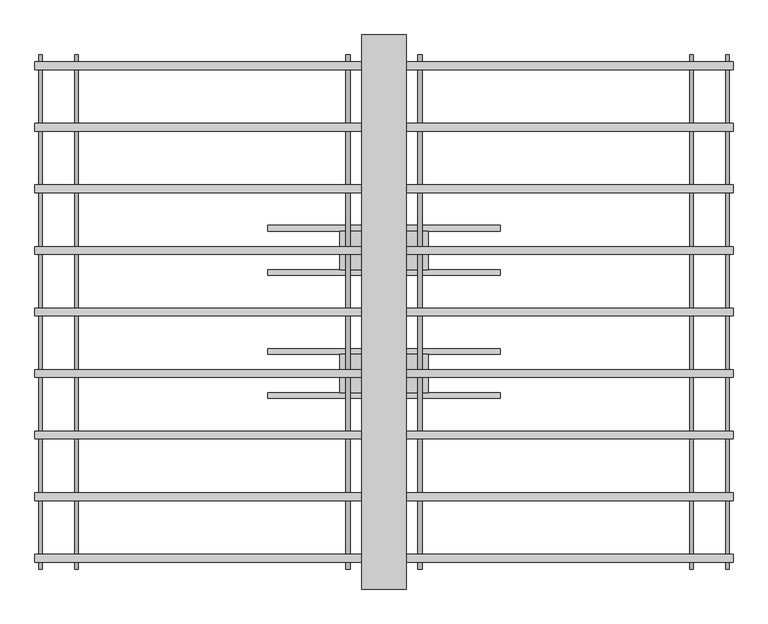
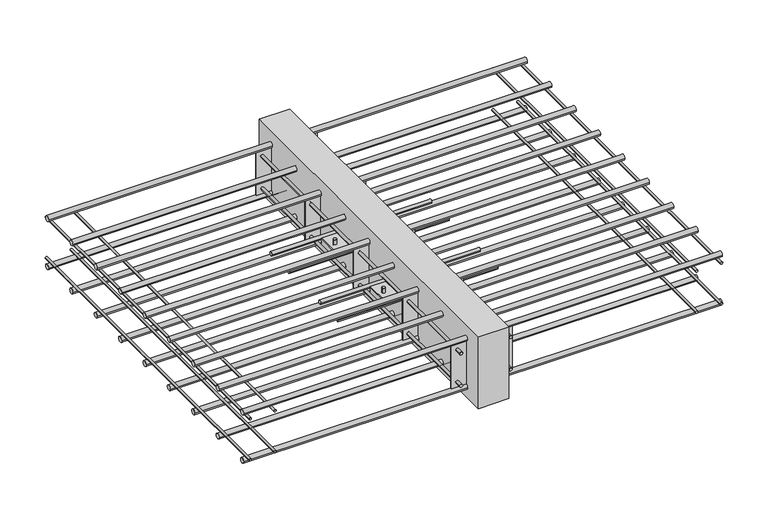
"""IFC4 building model written with IfcOpenShell, lengths in millimetres: proxy geometry, ACINOXplus_Typenreihe_M : MG+ S2."""

from ifc_helpers import new_model, si_unit, point, frame, frame_2d, origin, place, context, project, spatial, polyline, circle_curve, trimmed, segment, composite_curve, outline, extrude, source, transform, mapped, element, save
from ifc_brep_helpers import plane_surface, cylinder_surface, advanced_brep


def generic_models_0e482cd6(model_context):
    return source(origin(), model_context, "Body", "SolidModel", [
        extrude(outline(composite_curve([segment(trimmed(circle_curve(frame_2d((-151.1111111, -104.0)), 5.0), [point((-156.1111111, -104.0))], [point((-146.1111111, -104.0))], False, "CARTESIAN"), True, "CONTINUOUS"), segment(trimmed(circle_curve(frame_2d((-151.1111111, -104.0)), 5.0), [point((-146.1111111, -104.0))], [point((-156.1111111, -104.0))], False, "CARTESIAN"), True, "CONTINUOUS")], self_intersect=False)), frame((-210.0, 0.0, 0.0), z_axis=(1.0, 0.0, 0.0), x_axis=(0.0, 1.0, 0.0)), (0.0, 0.0, 1.0), 420.0),
        extrude(outline(composite_curve([segment(trimmed(circle_curve(frame_2d((-71.1111111, -104.0)), 5.0), [point((-76.1111111, -104.0))], [point((-66.1111111, -104.0))], False, "CARTESIAN"), True, "CONTINUOUS"), segment(trimmed(circle_curve(frame_2d((-71.1111111, -104.0)), 5.0), [point((-66.1111111, -104.0))], [point((-76.1111111, -104.0))], False, "CARTESIAN"), True, "CONTINUOUS")], self_intersect=False)), frame((-210.0, 0.0, 0.0), z_axis=(1.0, 0.0, 0.0), x_axis=(0.0, 1.0, 0.0)), (0.0, 0.0, 1.0), 420.0),
        advanced_brep(
        [(-69.0, -111.1111111, -89.0), (-61.0, -111.1111111, -89.0), (61.0, -111.1111111, -89.0), (69.0, -111.1111111, -89.0), (-69.0, -111.1111111, -119.0), (-61.0, -111.1111111, -119.0), (61.0, -111.1111111, -119.0), (69.0, -111.1111111, -119.0), (-69.0, -111.1111111, -102.5), (-61.0, -111.1111111, -102.5), (-61.0, -111.1111111, -105.5), (-69.0, -111.1111111, -105.5), (61.0, -111.1111111, -102.5), (69.0, -111.1111111, -102.5), (69.0, -111.1111111, -105.5), (61.0, -111.1111111, -105.5), (80.0, -76.1111111, -102.5), (-80.0, -76.1111111, -102.5), (-80.0, -146.1111111, -102.5), (80.0, -146.1111111, -102.5), (80.0, -76.1111111, -105.5), (80.0, -146.1111111, -105.5), (-80.0, -146.1111111, -105.5), (-80.0, -76.1111111, -105.5)],
        [
            (0, 1, circle_curve(frame((-65.0, -111.1111111, -89.0), z_axis=(0.0, 0.0, 1.0), x_axis=(1.0, 0.0, 0.0)), 4.0)),
            (1, 0, circle_curve(frame((-65.0, -111.1111111, -89.0), z_axis=(0.0, 0.0, 1.0), x_axis=(1.0, 0.0, 0.0)), 4.0)),
            (2, 3, circle_curve(frame((65.0, -111.1111111, -89.0), z_axis=(0.0, 0.0, 1.0), x_axis=(1.0, 0.0, 0.0)), 4.0)),
            (3, 2, circle_curve(frame((65.0, -111.1111111, -89.0), z_axis=(0.0, 0.0, 1.0), x_axis=(1.0, 0.0, 0.0)), 4.0)),
            (4, 5, circle_curve(frame((-65.0, -111.1111111, -119.0), z_axis=(0.0, 0.0, -1.0), x_axis=(1.0, 0.0, 0.0)), 4.0)),
            (5, 4, circle_curve(frame((-65.0, -111.1111111, -119.0), z_axis=(0.0, 0.0, -1.0), x_axis=(1.0, 0.0, 0.0)), 4.0)),
            (6, 7, circle_curve(frame((65.0, -111.1111111, -119.0), z_axis=(0.0, 0.0, -1.0), x_axis=(1.0, 0.0, 0.0)), 4.0)),
            (7, 6, circle_curve(frame((65.0, -111.1111111, -119.0), z_axis=(0.0, 0.0, -1.0), x_axis=(1.0, 0.0, 0.0)), 4.0)),
            (0, 8),
            (8, 9, circle_curve(frame((-65.0, -111.1111111, -102.5), z_axis=(0.0, 0.0, 1.0), x_axis=(1.0, 0.0, 0.0)), 4.0)),
            (9, 1),
            (5, 10),
            (10, 11, circle_curve(frame((-65.0, -111.1111111, -105.5), z_axis=(0.0, 0.0, -1.0), x_axis=(1.0, 0.0, 0.0)), 4.0)),
            (11, 4),
            (9, 8, circle_curve(frame((-65.0, -111.1111111, -102.5), z_axis=(0.0, 0.0, 1.0), x_axis=(1.0, 0.0, 0.0)), 4.0)),
            (11, 10, circle_curve(frame((-65.0, -111.1111111, -105.5), z_axis=(0.0, 0.0, -1.0), x_axis=(1.0, 0.0, 0.0)), 4.0)),
            (2, 12),
            (12, 13, circle_curve(frame((65.0, -111.1111111, -102.5), z_axis=(0.0, 0.0, 1.0), x_axis=(1.0, 0.0, 0.0)), 4.0)),
            (13, 3),
            (7, 14),
            (14, 15, circle_curve(frame((65.0, -111.1111111, -105.5), z_axis=(0.0, 0.0, -1.0), x_axis=(1.0, 0.0, 0.0)), 4.0)),
            (15, 6),
            (13, 12, circle_curve(frame((65.0, -111.1111111, -102.5), z_axis=(0.0, 0.0, 1.0), x_axis=(1.0, 0.0, 0.0)), 4.0)),
            (15, 14, circle_curve(frame((65.0, -111.1111111, -105.5), z_axis=(0.0, 0.0, -1.0), x_axis=(1.0, 0.0, 0.0)), 4.0)),
            (16, 17),
            (17, 18),
            (18, 19),
            (19, 16),
            (20, 21),
            (21, 22),
            (22, 23),
            (23, 20),
            (16, 20),
            (23, 17),
            (22, 18),
            (21, 19),
        ],
        [
            plane_surface(frame((-61.0, -111.1111111, -89.0), z_axis=(0.0, 0.0, 1.0), x_axis=(0.0, 1.0, 0.0))),
            plane_surface(frame((-61.0, -111.1111111, -119.0), z_axis=(0.0, 0.0, -1.0), x_axis=(0.0, -1.0, 0.0))),
            cylinder_surface(frame((-65.0, -111.1111111, -119.0), z_axis=(0.0, 0.0, 1.0), x_axis=(1.0, 0.0, 0.0)), 4.0),
            cylinder_surface(frame((65.0, -111.1111111, -104.0), z_axis=(0.0, 0.0, 1.0), x_axis=(1.0, 0.0, 0.0)), 4.0),
            plane_surface(frame((-80.0, -76.1111111, -102.5), z_axis=(0.0, 0.0, 1.0), x_axis=(-1.0, 0.0, 0.0))),
            plane_surface(frame((-80.0, -76.1111111, -105.5), z_axis=(0.0, 0.0, -1.0), x_axis=(1.0, 0.0, 0.0))),
            plane_surface(frame((80.0, -76.1111111, -102.5), z_axis=(0.0, 1.0, 0.0), x_axis=(0.0, 0.0, -1.0))),
            plane_surface(frame((-80.0, -76.1111111, -102.5), z_axis=(-1.0, 0.0, 0.0), x_axis=(0.0, 0.0, -1.0))),
            plane_surface(frame((-80.0, -146.1111111, -102.5), z_axis=(0.0, -1.0, 0.0), x_axis=(0.0, 0.0, -1.0))),
            plane_surface(frame((80.0, -146.1111111, -102.5), z_axis=(1.0, 0.0, 0.0), x_axis=(0.0, 0.0, -1.0))),
        ],
        [
            (0, [[1, 2]]),
            (0, [[3, 4]]),
            (1, [[5, 6]]),
            (1, [[7, 8]]),
            (2, [[-1, 9, 10, 11]]),
            (2, [[-6, 12, 13, 14]]),
            (2, [[-2, -11, 15, -9]]),
            (2, [[-5, -14, 16, -12]]),
            (3, [[-3, 17, 18, 19]]),
            (3, [[-8, 20, 21, 22]]),
            (3, [[-4, -19, 23, -17]]),
            (3, [[-7, -22, 24, -20]]),
            (4, [[25, 26, 27, 28], [-10, -15], [-18, -23]]),
            (5, [[29, 30, 31, 32], [-13, -16], [-21, -24]]),
            (6, [[-25, 33, -32, 34]]),
            (7, [[-26, -34, -31, 35]]),
            (8, [[-27, -35, -30, 36]]),
            (9, [[-28, -36, -29, -33]]),
        ],
    ),
        extrude(outline(composite_curve([segment(trimmed(circle_curve(frame_2d((71.1111111, -104.0)), 5.0), [point((66.1111111, -104.0))], [point((76.1111111, -104.0))], False, "CARTESIAN"), True, "CONTINUOUS"), segment(trimmed(circle_curve(frame_2d((71.1111111, -104.0)), 5.0), [point((76.1111111, -104.0))], [point((66.1111111, -104.0))], False, "CARTESIAN"), True, "CONTINUOUS")], self_intersect=False)), frame((-210.0, 0.0, 0.0), z_axis=(1.0, 0.0, 0.0), x_axis=(0.0, 1.0, 0.0)), (0.0, 0.0, 1.0), 420.0),
        extrude(outline(composite_curve([segment(trimmed(circle_curve(frame_2d((151.1111111, -104.0)), 5.0), [point((146.1111111, -104.0))], [point((156.1111111, -104.0))], False, "CARTESIAN"), True, "CONTINUOUS"), segment(trimmed(circle_curve(frame_2d((151.1111111, -104.0)), 5.0), [point((156.1111111, -104.0))], [point((146.1111111, -104.0))], False, "CARTESIAN"), True, "CONTINUOUS")], self_intersect=False)), frame((-210.0, 0.0, 0.0), z_axis=(1.0, 0.0, 0.0), x_axis=(0.0, 1.0, 0.0)), (0.0, 0.0, 1.0), 420.0),
        advanced_brep(
        [(-69.0, 111.1111111, -89.0), (-61.0, 111.1111111, -89.0), (61.0, 111.1111111, -89.0), (69.0, 111.1111111, -89.0), (-69.0, 111.1111111, -119.0), (-61.0, 111.1111111, -119.0), (61.0, 111.1111111, -119.0), (69.0, 111.1111111, -119.0), (-69.0, 111.1111111, -102.5), (-61.0, 111.1111111, -102.5), (-61.0, 111.1111111, -105.5), (-69.0, 111.1111111, -105.5), (61.0, 111.1111111, -102.5), (69.0, 111.1111111, -102.5), (69.0, 111.1111111, -105.5), (61.0, 111.1111111, -105.5), (80.0, 146.1111111, -102.5), (-80.0, 146.1111111, -102.5), (-80.0, 76.1111111, -102.5), (80.0, 76.1111111, -102.5), (80.0, 146.1111111, -105.5), (80.0, 76.1111111, -105.5), (-80.0, 76.1111111, -105.5), (-80.0, 146.1111111, -105.5)],
        [
            (0, 1, circle_curve(frame((-65.0, 111.1111111, -89.0), z_axis=(0.0, 0.0, 1.0), x_axis=(1.0, 0.0, 0.0)), 4.0)),
            (1, 0, circle_curve(frame((-65.0, 111.1111111, -89.0), z_axis=(0.0, 0.0, 1.0), x_axis=(1.0, 0.0, 0.0)), 4.0)),
            (2, 3, circle_curve(frame((65.0, 111.1111111, -89.0), z_axis=(0.0, 0.0, 1.0), x_axis=(1.0, 0.0, 0.0)), 4.0)),
            (3, 2, circle_curve(frame((65.0, 111.1111111, -89.0), z_axis=(0.0, 0.0, 1.0), x_axis=(1.0, 0.0, 0.0)), 4.0)),
            (4, 5, circle_curve(frame((-65.0, 111.1111111, -119.0), z_axis=(0.0, 0.0, -1.0), x_axis=(1.0, 0.0, 0.0)), 4.0)),
            (5, 4, circle_curve(frame((-65.0, 111.1111111, -119.0), z_axis=(0.0, 0.0, -1.0), x_axis=(1.0, 0.0, 0.0)), 4.0)),
            (6, 7, circle_curve(frame((65.0, 111.1111111, -119.0), z_axis=(0.0, 0.0, -1.0), x_axis=(1.0, 0.0, 0.0)), 4.0)),
            (7, 6, circle_curve(frame((65.0, 111.1111111, -119.0), z_axis=(0.0, 0.0, -1.0), x_axis=(1.0, 0.0, 0.0)), 4.0)),
            (0, 8),
            (8, 9, circle_curve(frame((-65.0, 111.1111111, -102.5), z_axis=(0.0, 0.0, 1.0), x_axis=(1.0, 0.0, 0.0)), 4.0)),
            (9, 1),
            (5, 10),
            (10, 11, circle_curve(frame((-65.0, 111.1111111, -105.5), z_axis=(0.0, 0.0, -1.0), x_axis=(1.0, 0.0, 0.0)), 4.0)),
            (11, 4),
            (9, 8, circle_curve(frame((-65.0, 111.1111111, -102.5), z_axis=(0.0, 0.0, 1.0), x_axis=(1.0, 0.0, 0.0)), 4.0)),
            (11, 10, circle_curve(frame((-65.0, 111.1111111, -105.5), z_axis=(0.0, 0.0, -1.0), x_axis=(1.0, 0.0, 0.0)), 4.0)),
            (2, 12),
            (12, 13, circle_curve(frame((65.0, 111.1111111, -102.5), z_axis=(0.0, 0.0, 1.0), x_axis=(1.0, 0.0, 0.0)), 4.0)),
            (13, 3),
            (7, 14),
            (14, 15, circle_curve(frame((65.0, 111.1111111, -105.5), z_axis=(0.0, 0.0, -1.0), x_axis=(1.0, 0.0, 0.0)), 4.0)),
            (15, 6),
            (13, 12, circle_curve(frame((65.0, 111.1111111, -102.5), z_axis=(0.0, 0.0, 1.0), x_axis=(1.0, 0.0, 0.0)), 4.0)),
            (15, 14, circle_curve(frame((65.0, 111.1111111, -105.5), z_axis=(0.0, 0.0, -1.0), x_axis=(1.0, 0.0, 0.0)), 4.0)),
            (16, 17),
            (17, 18),
            (18, 19),
            (19, 16),
            (20, 21),
            (21, 22),
            (22, 23),
            (23, 20),
            (16, 20),
            (23, 17),
            (22, 18),
            (21, 19),
        ],
        [
            plane_surface(frame((-61.0, 111.1111111, -89.0), z_axis=(0.0, 0.0, 1.0), x_axis=(0.0, 1.0, 0.0))),
            plane_surface(frame((-61.0, 111.1111111, -119.0), z_axis=(0.0, 0.0, -1.0), x_axis=(0.0, -1.0, 0.0))),
            cylinder_surface(frame((-65.0, 111.1111111, -119.0), z_axis=(0.0, 0.0, 1.0), x_axis=(1.0, 0.0, 0.0)), 4.0),
            cylinder_surface(frame((65.0, 111.1111111, -104.0), z_axis=(0.0, 0.0, 1.0), x_axis=(1.0, 0.0, 0.0)), 4.0),
            plane_surface(frame((-80.0, 146.1111111, -102.5), z_axis=(0.0, 0.0, 1.0), x_axis=(-1.0, 0.0, 0.0))),
            plane_surface(frame((-80.0, 146.1111111, -105.5), z_axis=(0.0, 0.0, -1.0), x_axis=(1.0, 0.0, 0.0))),
            plane_surface(frame((80.0, 146.1111111, -102.5), z_axis=(0.0, 1.0, 0.0), x_axis=(0.0, 0.0, -1.0))),
            plane_surface(frame((-80.0, 146.1111111, -102.5), z_axis=(-1.0, 0.0, 0.0), x_axis=(0.0, 0.0, -1.0))),
            plane_surface(frame((-80.0, 76.1111111, -102.5), z_axis=(0.0, -1.0, 0.0), x_axis=(0.0, 0.0, -1.0))),
            plane_surface(frame((80.0, 76.1111111, -102.5), z_axis=(1.0, 0.0, 0.0), x_axis=(0.0, 0.0, -1.0))),
        ],
        [
            (0, [[1, 2]]),
            (0, [[3, 4]]),
            (1, [[5, 6]]),
            (1, [[7, 8]]),
            (2, [[-1, 9, 10, 11]]),
            (2, [[-6, 12, 13, 14]]),
            (2, [[-2, -11, 15, -9]]),
            (2, [[-5, -14, 16, -12]]),
            (3, [[-3, 17, 18, 19]]),
            (3, [[-8, 20, 21, 22]]),
            (3, [[-4, -19, 23, -17]]),
            (3, [[-7, -22, 24, -20]]),
            (4, [[25, 26, 27, 28], [-10, -15], [-18, -23]]),
            (5, [[29, 30, 31, 32], [-13, -16], [-21, -24]]),
            (6, [[-25, 33, -32, 34]]),
            (7, [[-26, -34, -31, 35]]),
            (8, [[-27, -35, -30, 36]]),
            (9, [[-28, -36, -29, -33]]),
        ],
    ),
        extrude(outline(polyline([(40.0, 500.0), (40.0, -500.0), (-40.0, -500.0), (-40.0, 500.0), (40.0, 500.0)])), frame((0.0, 0.0, -200.0), z_axis=(0.0, 0.0, 1.0), x_axis=(1.0, 0.0, 0.0)), (0.0, 0.0, 1.0), 200.0),
        extrude(outline(polyline([(80.0, -220.7222222), (80.0, -223.7222222), (-80.0, -223.7222222), (-80.0, -220.7222222), (80.0, -220.7222222)])), frame((0.0, 0.0, -164.0), z_axis=(0.0, 0.0, 1.0), x_axis=(1.0, 0.0, 0.0)), (0.0, 0.0, 1.0), 120.0),
        extrude(outline(polyline([(80.0, 1.5), (80.0, -1.5), (-80.0, -1.5), (-80.0, 1.5), (80.0, 1.5)])), frame((0.0, 0.0, -164.0), z_axis=(0.0, 0.0, 1.0), x_axis=(1.0, 0.0, 0.0)), (0.0, 0.0, 1.0), 120.0),
        extrude(outline(polyline([(80.0, 223.7222222), (80.0, 220.7222222), (-80.0, 220.7222222), (-80.0, 223.7222222), (80.0, 223.7222222)])), frame((0.0, 0.0, -164.0), z_axis=(0.0, 0.0, 1.0), x_axis=(1.0, 0.0, 0.0)), (0.0, 0.0, 1.0), 120.0),
        extrude(outline(polyline([(80.0, -442.9444444), (80.0, -445.9444444), (-80.0, -445.9444444), (-80.0, -442.9444444), (80.0, -442.9444444)])), frame((0.0, 0.0, -164.0), z_axis=(0.0, 0.0, 1.0), x_axis=(1.0, 0.0, 0.0)), (0.0, 0.0, 1.0), 120.0),
        extrude(outline(polyline([(80.0, 445.9444444), (80.0, 442.9444444), (-80.0, 442.9444444), (-80.0, 445.9444444), (80.0, 445.9444444)])), frame((0.0, 0.0, -164.0), z_axis=(0.0, 0.0, 1.0), x_axis=(1.0, 0.0, 0.0)), (0.0, 0.0, 1.0), 120.0),
        extrude(outline(composite_curve([segment(trimmed(circle_curve(frame_2d((-149.0, -65.0)), 4.0), [point((-149.0, -61.0))], [point((-149.0, -69.0))], False, "CARTESIAN"), True, "CONTINUOUS"), segment(trimmed(circle_curve(frame_2d((-149.0, -65.0)), 4.0), [point((-149.0, -69.0))], [point((-149.0, -61.0))], False, "CARTESIAN"), True, "CONTINUOUS")], self_intersect=False)), frame((0.0, -464.4444444, 0.0), z_axis=(0.0, 1.0, 0.0), x_axis=(0.0, 0.0, 1.0)), (0.0, 0.0, 1.0), 18.5),
        extrude(outline(composite_curve([segment(trimmed(circle_curve(frame_2d((-149.0, -65.0)), 4.0), [point((-149.0, -69.0))], [point((-149.0, -61.0))], False, "CARTESIAN"), True, "CONTINUOUS"), segment(trimmed(circle_curve(frame_2d((-149.0, -65.0)), 4.0), [point((-149.0, -61.0))], [point((-149.0, -69.0))], False, "CARTESIAN"), True, "CONTINUOUS")], self_intersect=False)), frame((0.0, -442.9444444, 0.0), z_axis=(0.0, 1.0, 0.0), x_axis=(0.0, 0.0, 1.0)), (0.0, 0.0, 1.0), 663.6666667),
        extrude(outline(composite_curve([segment(trimmed(circle_curve(frame_2d((-149.0, -65.0)), 4.0), [point((-149.0, -69.0))], [point((-149.0, -61.0))], False, "CARTESIAN"), True, "CONTINUOUS"), segment(trimmed(circle_curve(frame_2d((-149.0, -65.0)), 4.0), [point((-149.0, -61.0))], [point((-149.0, -69.0))], False, "CARTESIAN"), True, "CONTINUOUS")], self_intersect=False)), frame((0.0, 445.9444444, 0.0), z_axis=(0.0, 1.0, 0.0), x_axis=(0.0, 0.0, 1.0)), (0.0, 0.0, 1.0), 18.5),
        extrude(outline(composite_curve([segment(trimmed(circle_curve(frame_2d((-149.0, -65.0)), 4.0), [point((-149.0, -69.0))], [point((-149.0, -61.0))], False, "CARTESIAN"), True, "CONTINUOUS"), segment(trimmed(circle_curve(frame_2d((-149.0, -65.0)), 4.0), [point((-149.0, -61.0))], [point((-149.0, -69.0))], False, "CARTESIAN"), True, "CONTINUOUS")], self_intersect=False)), frame((0.0, 223.7222222, 0.0), z_axis=(0.0, 1.0, 0.0), x_axis=(0.0, 0.0, 1.0)), (0.0, 0.0, 1.0), 219.2222222),
        extrude(outline(composite_curve([segment(trimmed(circle_curve(frame_2d((-149.0, 65.0)), 4.0), [point((-149.0, 69.0))], [point((-149.0, 61.0))], False, "CARTESIAN"), True, "CONTINUOUS"), segment(trimmed(circle_curve(frame_2d((-149.0, 65.0)), 4.0), [point((-149.0, 61.0))], [point((-149.0, 69.0))], False, "CARTESIAN"), True, "CONTINUOUS")], self_intersect=False)), frame((0.0, -464.4444444, 0.0), z_axis=(0.0, 1.0, 0.0), x_axis=(0.0, 0.0, 1.0)), (0.0, 0.0, 1.0), 18.5),
        extrude(outline(composite_curve([segment(trimmed(circle_curve(frame_2d((-149.0, 65.0)), 4.0), [point((-149.0, 61.0))], [point((-149.0, 69.0))], False, "CARTESIAN"), True, "CONTINUOUS"), segment(trimmed(circle_curve(frame_2d((-149.0, 65.0)), 4.0), [point((-149.0, 69.0))], [point((-149.0, 61.0))], False, "CARTESIAN"), True, "CONTINUOUS")], self_intersect=False)), frame((0.0, -442.9444444, 0.0), z_axis=(0.0, 1.0, 0.0), x_axis=(0.0, 0.0, 1.0)), (0.0, 0.0, 1.0), 663.6666667),
        extrude(outline(composite_curve([segment(trimmed(circle_curve(frame_2d((-149.0, 65.0)), 4.0), [point((-149.0, 61.0))], [point((-149.0, 69.0))], False, "CARTESIAN"), True, "CONTINUOUS"), segment(trimmed(circle_curve(frame_2d((-149.0, 65.0)), 4.0), [point((-149.0, 69.0))], [point((-149.0, 61.0))], False, "CARTESIAN"), True, "CONTINUOUS")], self_intersect=False)), frame((0.0, 445.9444444, 0.0), z_axis=(0.0, 1.0, 0.0), x_axis=(0.0, 0.0, 1.0)), (0.0, 0.0, 1.0), 18.5),
        extrude(outline(composite_curve([segment(trimmed(circle_curve(frame_2d((-149.0, 65.0)), 4.0), [point((-149.0, 61.0))], [point((-149.0, 69.0))], False, "CARTESIAN"), True, "CONTINUOUS"), segment(trimmed(circle_curve(frame_2d((-149.0, 65.0)), 4.0), [point((-149.0, 69.0))], [point((-149.0, 61.0))], False, "CARTESIAN"), True, "CONTINUOUS")], self_intersect=False)), frame((0.0, 223.7222222, 0.0), z_axis=(0.0, 1.0, 0.0), x_axis=(0.0, 0.0, 1.0)), (0.0, 0.0, 1.0), 219.2222222),
        extrude(outline(composite_curve([segment(trimmed(circle_curve(frame_2d((-59.0, -65.0)), 4.0), [point((-59.0, -61.0))], [point((-59.0, -69.0))], False, "CARTESIAN"), True, "CONTINUOUS"), segment(trimmed(circle_curve(frame_2d((-59.0, -65.0)), 4.0), [point((-59.0, -69.0))], [point((-59.0, -61.0))], False, "CARTESIAN"), True, "CONTINUOUS")], self_intersect=False)), frame((0.0, -464.4444444, 0.0), z_axis=(0.0, 1.0, 0.0), x_axis=(0.0, 0.0, 1.0)), (0.0, 0.0, 1.0), 18.5),
        extrude(outline(composite_curve([segment(trimmed(circle_curve(frame_2d((-59.0, -65.0)), 4.0), [point((-59.0, -69.0))], [point((-59.0, -61.0))], False, "CARTESIAN"), True, "CONTINUOUS"), segment(trimmed(circle_curve(frame_2d((-59.0, -65.0)), 4.0), [point((-59.0, -61.0))], [point((-59.0, -69.0))], False, "CARTESIAN"), True, "CONTINUOUS")], self_intersect=False)), frame((0.0, -442.9444444, 0.0), z_axis=(0.0, 1.0, 0.0), x_axis=(0.0, 0.0, 1.0)), (0.0, 0.0, 1.0), 663.6666667),
        extrude(outline(composite_curve([segment(trimmed(circle_curve(frame_2d((-59.0, -65.0)), 4.0), [point((-59.0, -69.0))], [point((-59.0, -61.0))], False, "CARTESIAN"), True, "CONTINUOUS"), segment(trimmed(circle_curve(frame_2d((-59.0, -65.0)), 4.0), [point((-59.0, -61.0))], [point((-59.0, -69.0))], False, "CARTESIAN"), True, "CONTINUOUS")], self_intersect=False)), frame((0.0, 445.9444444, 0.0), z_axis=(0.0, 1.0, 0.0), x_axis=(0.0, 0.0, 1.0)), (0.0, 0.0, 1.0), 18.5),
        extrude(outline(composite_curve([segment(trimmed(circle_curve(frame_2d((-59.0, -65.0)), 4.0), [point((-59.0, -69.0))], [point((-59.0, -61.0))], False, "CARTESIAN"), True, "CONTINUOUS"), segment(trimmed(circle_curve(frame_2d((-59.0, -65.0)), 4.0), [point((-59.0, -61.0))], [point((-59.0, -69.0))], False, "CARTESIAN"), True, "CONTINUOUS")], self_intersect=False)), frame((0.0, 223.7222222, 0.0), z_axis=(0.0, 1.0, 0.0), x_axis=(0.0, 0.0, 1.0)), (0.0, 0.0, 1.0), 219.2222222),
        extrude(outline(composite_curve([segment(trimmed(circle_curve(frame_2d((-59.0, 65.0)), 4.0), [point((-59.0, 69.0))], [point((-59.0, 61.0))], False, "CARTESIAN"), True, "CONTINUOUS"), segment(trimmed(circle_curve(frame_2d((-59.0, 65.0)), 4.0), [point((-59.0, 61.0))], [point((-59.0, 69.0))], False, "CARTESIAN"), True, "CONTINUOUS")], self_intersect=False)), frame((0.0, -464.4444444, 0.0), z_axis=(0.0, 1.0, 0.0), x_axis=(0.0, 0.0, 1.0)), (0.0, 0.0, 1.0), 18.5),
        extrude(outline(composite_curve([segment(trimmed(circle_curve(frame_2d((-59.0, 65.0)), 4.0), [point((-59.0, 61.0))], [point((-59.0, 69.0))], False, "CARTESIAN"), True, "CONTINUOUS"), segment(trimmed(circle_curve(frame_2d((-59.0, 65.0)), 4.0), [point((-59.0, 69.0))], [point((-59.0, 61.0))], False, "CARTESIAN"), True, "CONTINUOUS")], self_intersect=False)), frame((0.0, -442.9444444, 0.0), z_axis=(0.0, 1.0, 0.0), x_axis=(0.0, 0.0, 1.0)), (0.0, 0.0, 1.0), 663.6666667),
        extrude(outline(composite_curve([segment(trimmed(circle_curve(frame_2d((-59.0, 65.0)), 4.0), [point((-59.0, 61.0))], [point((-59.0, 69.0))], False, "CARTESIAN"), True, "CONTINUOUS"), segment(trimmed(circle_curve(frame_2d((-59.0, 65.0)), 4.0), [point((-59.0, 69.0))], [point((-59.0, 61.0))], False, "CARTESIAN"), True, "CONTINUOUS")], self_intersect=False)), frame((0.0, 445.9444444, 0.0), z_axis=(0.0, 1.0, 0.0), x_axis=(0.0, 0.0, 1.0)), (0.0, 0.0, 1.0), 18.5),
        extrude(outline(composite_curve([segment(trimmed(circle_curve(frame_2d((-59.0, 65.0)), 4.0), [point((-59.0, 61.0))], [point((-59.0, 69.0))], False, "CARTESIAN"), True, "CONTINUOUS"), segment(trimmed(circle_curve(frame_2d((-59.0, 65.0)), 4.0), [point((-59.0, 69.0))], [point((-59.0, 61.0))], False, "CARTESIAN"), True, "CONTINUOUS")], self_intersect=False)), frame((0.0, 223.7222222, 0.0), z_axis=(0.0, 1.0, 0.0), x_axis=(0.0, 0.0, 1.0)), (0.0, 0.0, 1.0), 219.2222222),
        extrude(outline(composite_curve([segment(trimmed(circle_curve(frame_2d((222.2222222, -171.0)), 7.0), [point((215.2222222, -171.0))], [point((229.2222222, -171.0))], False, "CARTESIAN"), True, "CONTINUOUS"), segment(trimmed(circle_curve(frame_2d((222.2222222, -171.0)), 7.0), [point((229.2222222, -171.0))], [point((215.2222222, -171.0))], False, "CARTESIAN"), True, "CONTINUOUS")], self_intersect=False)), frame((-630.0, 0.0, 0.0), z_axis=(1.0, 0.0, 0.0), x_axis=(0.0, 1.0, 0.0)), (0.0, 0.0, 1.0), 1260.0),
        extrude(outline(composite_curve([segment(trimmed(circle_curve(frame_2d((111.1111111, -171.0)), 7.0), [point((104.1111111, -171.0))], [point((118.1111111, -171.0))], False, "CARTESIAN"), True, "CONTINUOUS"), segment(trimmed(circle_curve(frame_2d((111.1111111, -171.0)), 7.0), [point((118.1111111, -171.0))], [point((104.1111111, -171.0))], False, "CARTESIAN"), True, "CONTINUOUS")], self_intersect=False)), frame((-630.0, 0.0, 0.0), z_axis=(1.0, 0.0, 0.0), x_axis=(0.0, 1.0, 0.0)), (0.0, 0.0, 1.0), 1260.0),
        extrude(outline(composite_curve([segment(trimmed(circle_curve(frame_2d((0.0, -171.0)), 7.0), [point((-7.0, -171.0))], [point((7.0, -171.0))], False, "CARTESIAN"), True, "CONTINUOUS"), segment(trimmed(circle_curve(frame_2d((0.0, -171.0)), 7.0), [point((7.0, -171.0))], [point((-7.0, -171.0))], False, "CARTESIAN"), True, "CONTINUOUS")], self_intersect=False)), frame((-630.0, 0.0, 0.0), z_axis=(1.0, 0.0, 0.0), x_axis=(0.0, 1.0, 0.0)), (0.0, 0.0, 1.0), 1260.0),
        extrude(outline(composite_curve([segment(trimmed(circle_curve(frame_2d((-111.1111111, -171.0)), 7.0), [point((-118.1111111, -171.0))], [point((-104.1111111, -171.0))], False, "CARTESIAN"), True, "CONTINUOUS"), segment(trimmed(circle_curve(frame_2d((-111.1111111, -171.0)), 7.0), [point((-104.1111111, -171.0))], [point((-118.1111111, -171.0))], False, "CARTESIAN"), True, "CONTINUOUS")], self_intersect=False)), frame((-630.0, 0.0, 0.0), z_axis=(1.0, 0.0, 0.0), x_axis=(0.0, 1.0, 0.0)), (0.0, 0.0, 1.0), 1260.0),
        extrude(outline(composite_curve([segment(trimmed(circle_curve(frame_2d((-222.2222222, -171.0)), 7.0), [point((-229.2222222, -171.0))], [point((-215.2222222, -171.0))], False, "CARTESIAN"), True, "CONTINUOUS"), segment(trimmed(circle_curve(frame_2d((-222.2222222, -171.0)), 7.0), [point((-215.2222222, -171.0))], [point((-229.2222222, -171.0))], False, "CARTESIAN"), True, "CONTINUOUS")], self_intersect=False)), frame((-630.0, 0.0, 0.0), z_axis=(1.0, 0.0, 0.0), x_axis=(0.0, 1.0, 0.0)), (0.0, 0.0, 1.0), 1260.0),
        extrude(outline(composite_curve([segment(trimmed(circle_curve(frame_2d((333.3333333, -171.0)), 7.0), [point((326.3333333, -171.0))], [point((340.3333333, -171.0))], False, "CARTESIAN"), True, "CONTINUOUS"), segment(trimmed(circle_curve(frame_2d((333.3333333, -171.0)), 7.0), [point((340.3333333, -171.0))], [point((326.3333333, -171.0))], False, "CARTESIAN"), True, "CONTINUOUS")], self_intersect=False)), frame((-630.0, 0.0, 0.0), z_axis=(1.0, 0.0, 0.0), x_axis=(0.0, 1.0, 0.0)), (0.0, 0.0, 1.0), 1260.0),
        extrude(outline(composite_curve([segment(trimmed(circle_curve(frame_2d((444.4444444, -171.0)), 7.0), [point((437.4444444, -171.0))], [point((451.4444444, -171.0))], False, "CARTESIAN"), True, "CONTINUOUS"), segment(trimmed(circle_curve(frame_2d((444.4444444, -171.0)), 7.0), [point((451.4444444, -171.0))], [point((437.4444444, -171.0))], False, "CARTESIAN"), True, "CONTINUOUS")], self_intersect=False)), frame((-630.0, 0.0, 0.0), z_axis=(1.0, 0.0, 0.0), x_axis=(0.0, 1.0, 0.0)), (0.0, 0.0, 1.0), 1260.0),
        extrude(outline(composite_curve([segment(trimmed(circle_curve(frame_2d((-333.3333333, -171.0)), 7.0), [point((-340.3333333, -171.0))], [point((-326.3333333, -171.0))], False, "CARTESIAN"), True, "CONTINUOUS"), segment(trimmed(circle_curve(frame_2d((-333.3333333, -171.0)), 7.0), [point((-326.3333333, -171.0))], [point((-340.3333333, -171.0))], False, "CARTESIAN"), True, "CONTINUOUS")], self_intersect=False)), frame((-630.0, 0.0, 0.0), z_axis=(1.0, 0.0, 0.0), x_axis=(0.0, 1.0, 0.0)), (0.0, 0.0, 1.0), 1260.0),
        extrude(outline(composite_curve([segment(trimmed(circle_curve(frame_2d((-444.4444444, -171.0)), 7.0), [point((-451.4444444, -171.0))], [point((-437.4444444, -171.0))], False, "CARTESIAN"), True, "CONTINUOUS"), segment(trimmed(circle_curve(frame_2d((-444.4444444, -171.0)), 7.0), [point((-437.4444444, -171.0))], [point((-451.4444444, -171.0))], False, "CARTESIAN"), True, "CONTINUOUS")], self_intersect=False)), frame((-630.0, 0.0, 0.0), z_axis=(1.0, 0.0, 0.0), x_axis=(0.0, 1.0, 0.0)), (0.0, 0.0, 1.0), 1260.0),
        extrude(outline(composite_curve([segment(trimmed(circle_curve(frame_2d((222.2222222, -37.0)), 7.0), [point((215.2222222, -37.0))], [point((229.2222222, -37.0))], False, "CARTESIAN"), True, "CONTINUOUS"), segment(trimmed(circle_curve(frame_2d((222.2222222, -37.0)), 7.0), [point((229.2222222, -37.0))], [point((215.2222222, -37.0))], False, "CARTESIAN"), True, "CONTINUOUS")], self_intersect=False)), frame((-630.0, 0.0, 0.0), z_axis=(1.0, 0.0, 0.0), x_axis=(0.0, 1.0, 0.0)), (0.0, 0.0, 1.0), 1260.0),
        extrude(outline(composite_curve([segment(trimmed(circle_curve(frame_2d((111.1111111, -37.0)), 7.0), [point((104.1111111, -37.0))], [point((118.1111111, -37.0))], False, "CARTESIAN"), True, "CONTINUOUS"), segment(trimmed(circle_curve(frame_2d((111.1111111, -37.0)), 7.0), [point((118.1111111, -37.0))], [point((104.1111111, -37.0))], False, "CARTESIAN"), True, "CONTINUOUS")], self_intersect=False)), frame((-630.0, 0.0, 0.0), z_axis=(1.0, 0.0, 0.0), x_axis=(0.0, 1.0, 0.0)), (0.0, 0.0, 1.0), 1260.0),
        extrude(outline(composite_curve([segment(trimmed(circle_curve(frame_2d((0.0, -37.0)), 7.0), [point((-7.0, -37.0))], [point((7.0, -37.0))], False, "CARTESIAN"), True, "CONTINUOUS"), segment(trimmed(circle_curve(frame_2d((0.0, -37.0)), 7.0), [point((7.0, -37.0))], [point((-7.0, -37.0))], False, "CARTESIAN"), True, "CONTINUOUS")], self_intersect=False)), frame((-630.0, 0.0, 0.0), z_axis=(1.0, 0.0, 0.0), x_axis=(0.0, 1.0, 0.0)), (0.0, 0.0, 1.0), 1260.0),
        extrude(outline(composite_curve([segment(trimmed(circle_curve(frame_2d((-111.1111111, -37.0)), 7.0), [point((-118.1111111, -37.0))], [point((-104.1111111, -37.0))], False, "CARTESIAN"), True, "CONTINUOUS"), segment(trimmed(circle_curve(frame_2d((-111.1111111, -37.0)), 7.0), [point((-104.1111111, -37.0))], [point((-118.1111111, -37.0))], False, "CARTESIAN"), True, "CONTINUOUS")], self_intersect=False)), frame((-630.0, 0.0, 0.0), z_axis=(1.0, 0.0, 0.0), x_axis=(0.0, 1.0, 0.0)), (0.0, 0.0, 1.0), 1260.0),
        extrude(outline(composite_curve([segment(trimmed(circle_curve(frame_2d((-222.2222222, -37.0)), 7.0), [point((-229.2222222, -37.0))], [point((-215.2222222, -37.0))], False, "CARTESIAN"), True, "CONTINUOUS"), segment(trimmed(circle_curve(frame_2d((-222.2222222, -37.0)), 7.0), [point((-215.2222222, -37.0))], [point((-229.2222222, -37.0))], False, "CARTESIAN"), True, "CONTINUOUS")], self_intersect=False)), frame((-630.0, 0.0, 0.0), z_axis=(1.0, 0.0, 0.0), x_axis=(0.0, 1.0, 0.0)), (0.0, 0.0, 1.0), 1260.0),
        extrude(outline(composite_curve([segment(trimmed(circle_curve(frame_2d((333.3333333, -37.0)), 7.0), [point((326.3333333, -37.0))], [point((340.3333333, -37.0))], False, "CARTESIAN"), True, "CONTINUOUS"), segment(trimmed(circle_curve(frame_2d((333.3333333, -37.0)), 7.0), [point((340.3333333, -37.0))], [point((326.3333333, -37.0))], False, "CARTESIAN"), True, "CONTINUOUS")], self_intersect=False)), frame((-630.0, 0.0, 0.0), z_axis=(1.0, 0.0, 0.0), x_axis=(0.0, 1.0, 0.0)), (0.0, 0.0, 1.0), 1260.0),
        extrude(outline(composite_curve([segment(trimmed(circle_curve(frame_2d((444.4444444, -37.0)), 7.0), [point((437.4444444, -37.0))], [point((451.4444444, -37.0))], False, "CARTESIAN"), True, "CONTINUOUS"), segment(trimmed(circle_curve(frame_2d((444.4444444, -37.0)), 7.0), [point((451.4444444, -37.0))], [point((437.4444444, -37.0))], False, "CARTESIAN"), True, "CONTINUOUS")], self_intersect=False)), frame((-630.0, 0.0, 0.0), z_axis=(1.0, 0.0, 0.0), x_axis=(0.0, 1.0, 0.0)), (0.0, 0.0, 1.0), 1260.0),
        extrude(outline(composite_curve([segment(trimmed(circle_curve(frame_2d((-333.3333333, -37.0)), 7.0), [point((-340.3333333, -37.0))], [point((-326.3333333, -37.0))], False, "CARTESIAN"), True, "CONTINUOUS"), segment(trimmed(circle_curve(frame_2d((-333.3333333, -37.0)), 7.0), [point((-326.3333333, -37.0))], [point((-340.3333333, -37.0))], False, "CARTESIAN"), True, "CONTINUOUS")], self_intersect=False)), frame((-630.0, 0.0, 0.0), z_axis=(1.0, 0.0, 0.0), x_axis=(0.0, 1.0, 0.0)), (0.0, 0.0, 1.0), 1260.0),
        extrude(outline(composite_curve([segment(trimmed(circle_curve(frame_2d((-444.4444444, -37.0)), 7.0), [point((-451.4444444, -37.0))], [point((-437.4444444, -37.0))], False, "CARTESIAN"), True, "CONTINUOUS"), segment(trimmed(circle_curve(frame_2d((-444.4444444, -37.0)), 7.0), [point((-437.4444444, -37.0))], [point((-451.4444444, -37.0))], False, "CARTESIAN"), True, "CONTINUOUS")], self_intersect=False)), frame((-630.0, 0.0, 0.0), z_axis=(1.0, 0.0, 0.0), x_axis=(0.0, 1.0, 0.0)), (0.0, 0.0, 1.0), 1260.0),
        extrude(outline(composite_curve([segment(trimmed(circle_curve(frame_2d((-161.0, -620.0)), 3.0), [point((-161.0, -617.0))], [point((-161.0, -623.0))], False, "CARTESIAN"), True, "CONTINUOUS"), segment(trimmed(circle_curve(frame_2d((-161.0, -620.0)), 3.0), [point((-161.0, -623.0))], [point((-161.0, -617.0))], False, "CARTESIAN"), True, "CONTINUOUS")], self_intersect=False)), frame((0.0, -464.4444444, 0.0), z_axis=(0.0, 1.0, 0.0), x_axis=(0.0, 0.0, 1.0)), (0.0, 0.0, 1.0), 928.8888889),
        extrude(outline(composite_curve([segment(trimmed(circle_curve(frame_2d((-161.0, -555.0)), 3.0), [point((-161.0, -552.0))], [point((-161.0, -558.0))], False, "CARTESIAN"), True, "CONTINUOUS"), segment(trimmed(circle_curve(frame_2d((-161.0, -555.0)), 3.0), [point((-161.0, -558.0))], [point((-161.0, -552.0))], False, "CARTESIAN"), True, "CONTINUOUS")], self_intersect=False)), frame((0.0, -464.4444444, 0.0), z_axis=(0.0, 1.0, 0.0), x_axis=(0.0, 0.0, 1.0)), (0.0, 0.0, 1.0), 928.8888889),
        extrude(outline(composite_curve([segment(trimmed(circle_curve(frame_2d((-161.0, 555.0)), 3.0), [point((-161.0, 558.0))], [point((-161.0, 552.0))], False, "CARTESIAN"), True, "CONTINUOUS"), segment(trimmed(circle_curve(frame_2d((-161.0, 555.0)), 3.0), [point((-161.0, 552.0))], [point((-161.0, 558.0))], False, "CARTESIAN"), True, "CONTINUOUS")], self_intersect=False)), frame((0.0, -464.4444444, 0.0), z_axis=(0.0, 1.0, 0.0), x_axis=(0.0, 0.0, 1.0)), (0.0, 0.0, 1.0), 928.8888889),
        extrude(outline(composite_curve([segment(trimmed(circle_curve(frame_2d((-161.0, 620.0)), 3.0), [point((-161.0, 623.0))], [point((-161.0, 617.0))], False, "CARTESIAN"), True, "CONTINUOUS"), segment(trimmed(circle_curve(frame_2d((-161.0, 620.0)), 3.0), [point((-161.0, 617.0))], [point((-161.0, 623.0))], False, "CARTESIAN"), True, "CONTINUOUS")], self_intersect=False)), frame((0.0, -464.4444444, 0.0), z_axis=(0.0, 1.0, 0.0), x_axis=(0.0, 0.0, 1.0)), (0.0, 0.0, 1.0), 928.8888889),
        extrude(outline(composite_curve([segment(trimmed(circle_curve(frame_2d((-47.0, 555.0)), 3.0), [point((-47.0, 558.0))], [point((-47.0, 552.0))], False, "CARTESIAN"), True, "CONTINUOUS"), segment(trimmed(circle_curve(frame_2d((-47.0, 555.0)), 3.0), [point((-47.0, 552.0))], [point((-47.0, 558.0))], False, "CARTESIAN"), True, "CONTINUOUS")], self_intersect=False)), frame((0.0, -464.4444444, 0.0), z_axis=(0.0, 1.0, 0.0), x_axis=(0.0, 0.0, 1.0)), (0.0, 0.0, 1.0), 928.8888889),
        extrude(outline(composite_curve([segment(trimmed(circle_curve(frame_2d((-47.0, 620.0)), 3.0), [point((-47.0, 623.0))], [point((-47.0, 617.0))], False, "CARTESIAN"), True, "CONTINUOUS"), segment(trimmed(circle_curve(frame_2d((-47.0, 620.0)), 3.0), [point((-47.0, 617.0))], [point((-47.0, 623.0))], False, "CARTESIAN"), True, "CONTINUOUS")], self_intersect=False)), frame((0.0, -464.4444444, 0.0), z_axis=(0.0, 1.0, 0.0), x_axis=(0.0, 0.0, 1.0)), (0.0, 0.0, 1.0), 928.8888889),
        extrude(outline(composite_curve([segment(trimmed(circle_curve(frame_2d((-47.0, -620.0)), 3.0), [point((-47.0, -617.0))], [point((-47.0, -623.0))], False, "CARTESIAN"), True, "CONTINUOUS"), segment(trimmed(circle_curve(frame_2d((-47.0, -620.0)), 3.0), [point((-47.0, -623.0))], [point((-47.0, -617.0))], False, "CARTESIAN"), True, "CONTINUOUS")], self_intersect=False)), frame((0.0, -464.4444444, 0.0), z_axis=(0.0, 1.0, 0.0), x_axis=(0.0, 0.0, 1.0)), (0.0, 0.0, 1.0), 928.8888889),
        extrude(outline(composite_curve([segment(trimmed(circle_curve(frame_2d((-47.0, -555.0)), 3.0), [point((-47.0, -552.0))], [point((-47.0, -558.0))], False, "CARTESIAN"), True, "CONTINUOUS"), segment(trimmed(circle_curve(frame_2d((-47.0, -555.0)), 3.0), [point((-47.0, -558.0))], [point((-47.0, -552.0))], False, "CARTESIAN"), True, "CONTINUOUS")], self_intersect=False)), frame((0.0, -464.4444444, 0.0), z_axis=(0.0, 1.0, 0.0), x_axis=(0.0, 0.0, 1.0)), (0.0, 0.0, 1.0), 928.8888889),
    ])


if __name__ == "__main__":
    model = new_model("IFC4")
    model_context = context("Model", 3, world=origin())
    ifc_project = project(units=[si_unit("LENGTHUNIT", "METRE", prefix="MILLI")], contexts=[model_context])
    site = spatial("IfcSite", under=ifc_project)
    building = spatial("IfcBuilding", under=site)
    placement = place(None, origin())
    generic_models_shape = generic_models_0e482cd6(model_context)
    element("IfcBuildingElementProxy", 1, Name="ACINOXplus_Typenreihe_M : MG+ S2", ObjectType="ACINOXplus_Typenreihe_M : MG+ S2", at=placement, inside=building, context=model_context, shape_type="MappedRepresentation", body=[
        mapped(generic_models_shape, transform((0.0, 0.0, 0.0), x_axis=(1.0, 0.0, 0.0), y_axis=(0.0, 1.0, 0.0), z_axis=(0.0, 0.0, 1.0))),
    ])
    save(model, "model.ifc")
